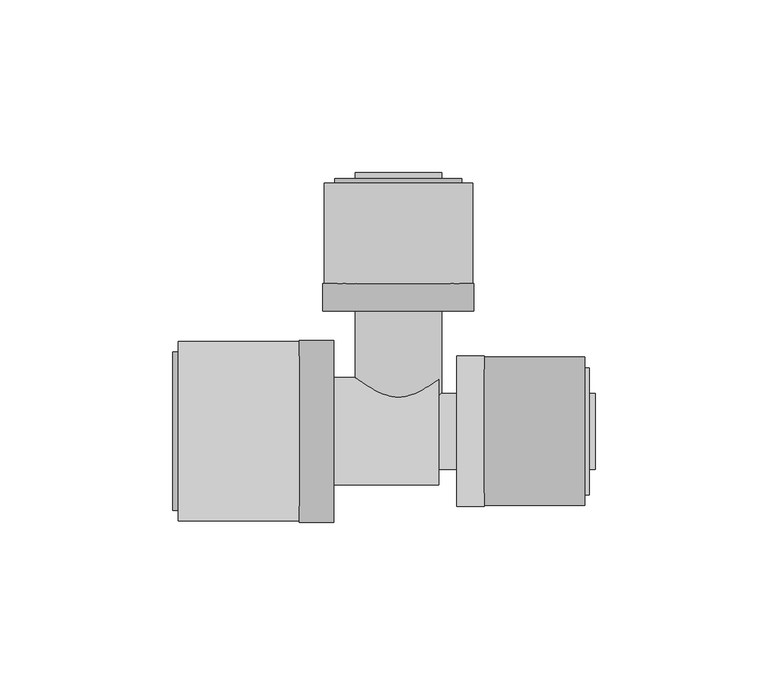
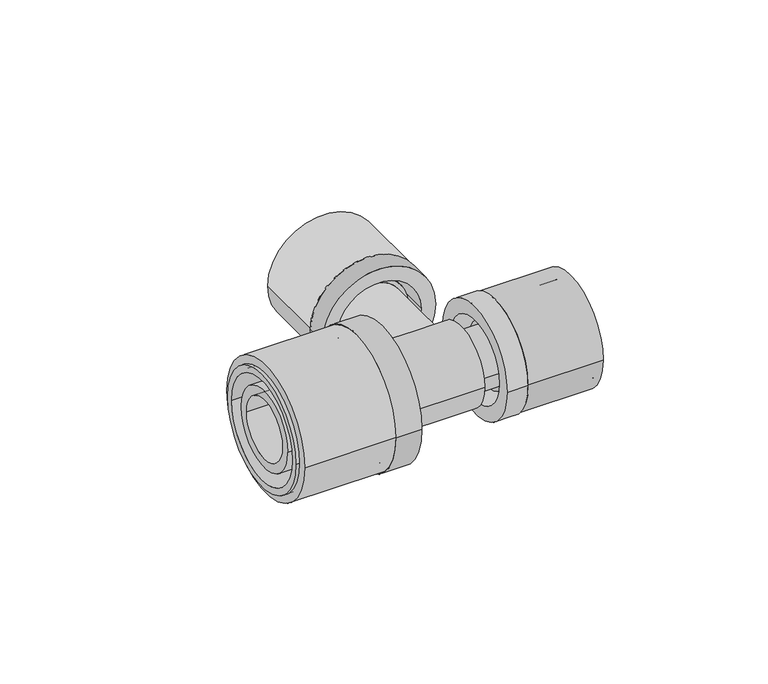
"""IFC4 building model written with IfcOpenShell, lengths in millimetres: pipe fitting geometry, FASTLOC_T-piece_LX : FSL T-Piece LX CZ."""

from ifc_helpers import new_model, si_unit, point, frame, origin, origin_2d, place, context, project, spatial, polyline, circle_curve, trimmed, segment, composite_curve, outline, extrude, source, transform, mapped, element, save
from ifc_brep_helpers import plane_surface, cylinder_surface, revolved_surface, advanced_brep


def pipe_fitting_757463f1(model_context):
    return source(origin(), model_context, "Body", "SolidModel", [
        extrude(outline(composite_curve([segment(trimmed(circle_curve(origin_2d(), 21.5), [point((-21.5, 0.0))], [point((21.5, 0.0))], False, "CARTESIAN"), True, "CONTINUOUS"), segment(trimmed(circle_curve(origin_2d(), 21.5), [point((21.5, 0.0))], [point((-21.5, 0.0))], False, "CARTESIAN"), True, "CONTINUOUS")], self_intersect=False), holes=[composite_curve([segment(trimmed(circle_curve(origin_2d(), 16.85), [point((-16.85, 0.0))], [point((16.85, 0.0))], True, "CARTESIAN"), True, "CONTINUOUS"), segment(trimmed(circle_curve(origin_2d(), 16.85), [point((16.85, 0.0))], [point((-16.85, 0.0))], True, "CARTESIAN"), True, "CONTINUOUS")], self_intersect=False)]), frame((24.9, 0.0, 0.0), z_axis=(1.0, 0.0, 0.0), x_axis=(0.0, 1.0, 0.0)), (0.0, 0.0, 1.0), 29.0),
        advanced_brep(
        [(24.9, 21.8, 0.0), (24.9, -21.8, 0.0), (16.9, -21.8, 0.0), (16.9, 21.8, 0.0), (55.2, 18.35, 0.0), (55.2, -18.35, 0.0), (24.9, -18.35, 0.0), (24.9, 18.35, 0.0), (16.9, 16.2, 0.0), (16.9, -16.2, 0.0), (55.2, -16.2, 0.0), (55.2, 16.2, 0.0)],
        [
            (0, 1, circle_curve(frame((24.9, 0.0, 0.0), z_axis=(-1.0, 0.0, 0.0), x_axis=(0.0, -1.0, 0.0)), 21.8)),
            (1, 2),
            (2, 3, circle_curve(frame((16.9, 0.0, 0.0), z_axis=(1.0, 0.0, 0.0), x_axis=(0.0, -1.0, 0.0)), 21.8)),
            (3, 0),
            (4, 5, circle_curve(frame((55.2, 0.0, 0.0), z_axis=(-1.0, 0.0, 0.0), x_axis=(0.0, -1.0, 0.0)), 18.35)),
            (5, 6),
            (6, 7, circle_curve(frame((24.9, 0.0, 0.0), z_axis=(1.0, 0.0, 0.0), x_axis=(0.0, -1.0, 0.0)), 18.35)),
            (7, 4),
            (8, 9, circle_curve(frame((16.9, 0.0, 0.0), z_axis=(-1.0, 0.0, 0.0), x_axis=(0.0, -1.0, 0.0)), 16.2)),
            (9, 10),
            (10, 11, circle_curve(frame((55.2, 0.0, 0.0), z_axis=(1.0, 0.0, 0.0), x_axis=(0.0, -1.0, 0.0)), 16.2)),
            (11, 8),
            (1, 0, circle_curve(frame((24.9, 0.0, 0.0), z_axis=(-1.0, 0.0, 0.0), x_axis=(0.0, 1.0, 0.0)), 21.8)),
            (3, 2, circle_curve(frame((16.9, 0.0, 0.0), z_axis=(1.0, 0.0, 0.0), x_axis=(0.0, 1.0, 0.0)), 21.8)),
            (6, 7, circle_curve(frame((24.9, 0.0, 0.0), z_axis=(-1.0, 0.0, 0.0), x_axis=(0.0, 1.0, 0.0)), 18.35)),
            (5, 4, circle_curve(frame((55.2, 0.0, 0.0), z_axis=(-1.0, 0.0, 0.0), x_axis=(0.0, 1.0, 0.0)), 18.35)),
            (10, 11, circle_curve(frame((55.2, 0.0, 0.0), z_axis=(-1.0, 0.0, 0.0), x_axis=(0.0, 1.0, 0.0)), 16.2)),
            (9, 8, circle_curve(frame((16.9, 0.0, 0.0), z_axis=(-1.0, 0.0, 0.0), x_axis=(0.0, 1.0, 0.0)), 16.2)),
        ],
        [
            cylinder_surface(frame((16.9, 0.0, 0.0), z_axis=(1.0, 0.0, 0.0), x_axis=(0.0, -1.0, 0.0)), 21.8),
            cylinder_surface(frame((16.9, 0.0, 0.0), z_axis=(1.0, 0.0, 0.0), x_axis=(0.0, -1.0, 0.0)), 18.35),
            revolved_surface(polyline([(55.2, -16.2, 0.0), (16.9, -16.2, 0.0)]), (16.9, 0.0, 0.0), (1.0, 0.0, 0.0)),
            cylinder_surface(frame((16.9, 0.0, 0.0), z_axis=(1.0, 0.0, 0.0), x_axis=(0.0, 1.0, 0.0)), 21.8),
            plane_surface(frame((24.9, 0.0, 0.0), z_axis=(1.0, 0.0, 0.0), x_axis=(0.0, 1.0, 0.0))),
            cylinder_surface(frame((16.9, 0.0, 0.0), z_axis=(1.0, 0.0, 0.0), x_axis=(0.0, 1.0, 0.0)), 18.35),
            plane_surface(frame((55.2, 0.0, 0.0), z_axis=(1.0, 0.0, 0.0), x_axis=(0.0, 1.0, 0.0))),
            revolved_surface(polyline([(55.2, 16.2, 0.0), (16.9, 16.2, 0.0)]), (16.9, 0.0, 0.0), (1.0, 0.0, 0.0)),
            plane_surface(frame((16.9, 0.0, 0.0), z_axis=(-1.0, 0.0, 0.0), x_axis=(0.0, 1.0, 0.0))),
        ],
        [
            (0, [[1, 2, 3, 4]]),
            (1, [[5, 6, 7, 8]]),
            (2, [[9, 10, 11, 12]]),
            (3, [[13, -4, 14, -2]]),
            (4, [[-13, -1], [15, -7]]),
            (5, [[16, -8, -15, -6]]),
            (6, [[-16, -5], [17, -11]]),
            (7, [[18, -12, -17, -10]]),
            (8, [[-14, -3], [-18, -9]]),
        ],
    ),
        extrude(outline(composite_curve([segment(trimmed(circle_curve(origin_2d(), 26.0), [point((26.0, 0.0))], [point((-26.0, 0.0))], False, "CARTESIAN"), True, "CONTINUOUS"), segment(trimmed(circle_curve(origin_2d(), 26.0), [point((-26.0, 0.0))], [point((26.0, 0.0))], False, "CARTESIAN"), True, "CONTINUOUS")], self_intersect=False), holes=[composite_curve([segment(trimmed(circle_curve(origin_2d(), 21.25), [point((21.25, 0.0))], [point((-21.25, 0.0))], True, "CARTESIAN"), True, "CONTINUOUS"), segment(trimmed(circle_curve(origin_2d(), 21.25), [point((-21.25, 0.0))], [point((21.25, 0.0))], True, "CARTESIAN"), True, "CONTINUOUS")], self_intersect=False)]), frame((-63.7, 0.0, 0.0), z_axis=(1.0, 0.0, 0.0), x_axis=(0.0, 1.0, 0.0)), (0.0, 0.0, 1.0), 35.0),
        advanced_brep(
        [(-28.7, -26.3, 0.0), (-28.7, 26.3, 0.0), (-18.7, 26.3, 0.0), (-18.7, -26.3, 0.0), (-65.2, -22.9, 0.0), (-65.2, 22.9, 0.0), (-28.7, 22.9, 0.0), (-28.7, -22.9, 0.0), (-18.7, -20.2, 0.0), (-18.7, 20.2, 0.0), (-65.2, 20.2, 0.0), (-65.2, -20.2, 0.0)],
        [
            (0, 1, circle_curve(frame((-28.7, 0.0, 0.0), z_axis=(1.0, 0.0, 0.0), x_axis=(0.0, 1.0, 0.0)), 26.3)),
            (1, 2),
            (2, 3, circle_curve(frame((-18.7, 0.0, 0.0), z_axis=(-1.0, 0.0, 0.0), x_axis=(0.0, 1.0, 0.0)), 26.3)),
            (3, 0),
            (4, 5, circle_curve(frame((-65.2, 0.0, 0.0), z_axis=(1.0, 0.0, 0.0), x_axis=(0.0, 1.0, 0.0)), 22.9)),
            (5, 6),
            (6, 7, circle_curve(frame((-28.7, 0.0, 0.0), z_axis=(-1.0, 0.0, 0.0), x_axis=(0.0, 1.0, 0.0)), 22.9)),
            (7, 4),
            (8, 9, circle_curve(frame((-18.7, 0.0, 0.0), z_axis=(1.0, 0.0, 0.0), x_axis=(0.0, 1.0, 0.0)), 20.2)),
            (9, 10),
            (10, 11, circle_curve(frame((-65.2, 0.0, 0.0), z_axis=(-1.0, 0.0, 0.0), x_axis=(0.0, 1.0, 0.0)), 20.2)),
            (11, 8),
            (1, 0, circle_curve(frame((-28.7, 0.0, 0.0), z_axis=(1.0, 0.0, 0.0), x_axis=(0.0, -1.0, 0.0)), 26.3)),
            (3, 2, circle_curve(frame((-18.7, 0.0, 0.0), z_axis=(-1.0, 0.0, 0.0), x_axis=(0.0, -1.0, 0.0)), 26.3)),
            (6, 7, circle_curve(frame((-28.7, 0.0, 0.0), z_axis=(1.0, 0.0, 0.0), x_axis=(0.0, -1.0, 0.0)), 22.9)),
            (5, 4, circle_curve(frame((-65.2, 0.0, 0.0), z_axis=(1.0, 0.0, 0.0), x_axis=(0.0, -1.0, 0.0)), 22.9)),
            (10, 11, circle_curve(frame((-65.2, 0.0, 0.0), z_axis=(1.0, 0.0, 0.0), x_axis=(0.0, -1.0, 0.0)), 20.2)),
            (9, 8, circle_curve(frame((-18.7, 0.0, 0.0), z_axis=(1.0, 0.0, 0.0), x_axis=(0.0, -1.0, 0.0)), 20.2)),
        ],
        [
            cylinder_surface(frame((-18.7, 0.0, 0.0), z_axis=(-1.0, 0.0, 0.0), x_axis=(0.0, 1.0, 0.0)), 26.3),
            cylinder_surface(frame((-18.7, 0.0, 0.0), z_axis=(-1.0, 0.0, 0.0), x_axis=(0.0, 1.0, 0.0)), 22.9),
            revolved_surface(polyline([(-65.2, 20.2, 0.0), (-18.7, 20.2, 0.0)]), (-18.7, 0.0, 0.0), (-1.0, 0.0, 0.0)),
            cylinder_surface(frame((-18.7, 0.0, 0.0), z_axis=(-1.0, 0.0, 0.0), x_axis=(0.0, -1.0, 0.0)), 26.3),
            plane_surface(frame((-28.7, 0.0, 0.0), z_axis=(-1.0, 0.0, 0.0), x_axis=(0.0, -1.0, 0.0))),
            cylinder_surface(frame((-18.7, 0.0, 0.0), z_axis=(-1.0, 0.0, 0.0), x_axis=(0.0, -1.0, 0.0)), 22.9),
            plane_surface(frame((-65.2, 0.0, 0.0), z_axis=(-1.0, 0.0, 0.0), x_axis=(0.0, -1.0, 0.0))),
            revolved_surface(polyline([(-65.2, -20.2, 0.0), (-18.7, -20.2, 0.0)]), (-18.7, 0.0, 0.0), (-1.0, 0.0, 0.0)),
            plane_surface(frame((-18.7, 0.0, 0.0), z_axis=(1.0, 0.0, 0.0), x_axis=(0.0, -1.0, 0.0))),
        ],
        [
            (0, [[1, 2, 3, 4]]),
            (1, [[5, 6, 7, 8]]),
            (2, [[9, 10, 11, 12]]),
            (3, [[13, -4, 14, -2]]),
            (4, [[-13, -1], [15, -7]]),
            (5, [[16, -8, -15, -6]]),
            (6, [[-16, -5], [17, -11]]),
            (7, [[18, -12, -17, -10]]),
            (8, [[-14, -3], [-18, -9]]),
        ],
    ),
        extrude(outline(composite_curve([segment(trimmed(circle_curve(origin_2d(), 21.5), [point((0.0, 21.5))], [point((0.0, -21.5))], False, "CARTESIAN"), True, "CONTINUOUS"), segment(trimmed(circle_curve(origin_2d(), 21.5), [point((0.0, -21.5))], [point((0.0, 21.5))], False, "CARTESIAN"), True, "CONTINUOUS")], self_intersect=False), holes=[composite_curve([segment(trimmed(circle_curve(origin_2d(), 16.85), [point((0.0, 16.85))], [point((0.0, -16.85))], True, "CARTESIAN"), True, "CONTINUOUS"), segment(trimmed(circle_curve(origin_2d(), 16.85), [point((0.0, -16.85))], [point((0.0, 16.85))], True, "CARTESIAN"), True, "CONTINUOUS")], self_intersect=False)]), frame((0.0, 42.8, 0.0), z_axis=(0.0, 1.0, 0.0), x_axis=(0.0, 0.0, 1.0)), (0.0, 0.0, 1.0), 29.0),
        advanced_brep(
        [(-21.8, 42.8, 0.0), (21.8, 42.8, 0.0), (21.8, 34.8, 0.0), (-21.8, 34.8, 0.0), (-18.35, 73.1, 0.0), (18.35, 73.1, 0.0), (18.35, 42.8, 0.0), (-18.35, 42.8, 0.0), (-16.2, 34.8, 0.0), (16.2, 34.8, 0.0), (16.2, 73.1, 0.0), (-16.2, 73.1, 0.0)],
        [
            (0, 1, circle_curve(frame((0.0, 42.8, 0.0), z_axis=(0.0, -1.0, 0.0), x_axis=(1.0, 0.0, 0.0)), 21.8)),
            (1, 2),
            (2, 3, circle_curve(frame((0.0, 34.8, 0.0), z_axis=(0.0, 1.0, 0.0), x_axis=(1.0, 0.0, 0.0)), 21.8)),
            (3, 0),
            (4, 5, circle_curve(frame((0.0, 73.1, 0.0), z_axis=(0.0, -1.0, 0.0), x_axis=(1.0, 0.0, 0.0)), 18.35)),
            (5, 6),
            (6, 7, circle_curve(frame((0.0, 42.8, 0.0), z_axis=(0.0, 1.0, 0.0), x_axis=(1.0, 0.0, 0.0)), 18.35)),
            (7, 4),
            (8, 9, circle_curve(frame((0.0, 34.8, 0.0), z_axis=(0.0, -1.0, 0.0), x_axis=(1.0, 0.0, 0.0)), 16.2)),
            (9, 10),
            (10, 11, circle_curve(frame((0.0, 73.1, 0.0), z_axis=(0.0, 1.0, 0.0), x_axis=(1.0, 0.0, 0.0)), 16.2)),
            (11, 8),
            (1, 0, circle_curve(frame((0.0, 42.8, 0.0), z_axis=(0.0, -1.0, 0.0), x_axis=(-1.0, 0.0, 0.0)), 21.8)),
            (3, 2, circle_curve(frame((0.0, 34.8, 0.0), z_axis=(0.0, 1.0, 0.0), x_axis=(-1.0, 0.0, 0.0)), 21.8)),
            (6, 7, circle_curve(frame((0.0, 42.8, 0.0), z_axis=(0.0, -1.0, 0.0), x_axis=(-1.0, 0.0, 0.0)), 18.35)),
            (5, 4, circle_curve(frame((0.0, 73.1, 0.0), z_axis=(0.0, -1.0, 0.0), x_axis=(-1.0, 0.0, 0.0)), 18.35)),
            (10, 11, circle_curve(frame((0.0, 73.1, 0.0), z_axis=(0.0, -1.0, 0.0), x_axis=(-1.0, 0.0, 0.0)), 16.2)),
            (9, 8, circle_curve(frame((0.0, 34.8, 0.0), z_axis=(0.0, -1.0, 0.0), x_axis=(-1.0, 0.0, 0.0)), 16.2)),
        ],
        [
            cylinder_surface(frame((0.0, 34.8, 0.0), z_axis=(0.0, 1.0, 0.0), x_axis=(1.0, 0.0, 0.0)), 21.8),
            cylinder_surface(frame((0.0, 34.8, 0.0), z_axis=(0.0, 1.0, 0.0), x_axis=(1.0, 0.0, 0.0)), 18.35),
            revolved_surface(polyline([(16.2, 73.1, 0.0), (16.2, 34.8, 0.0)]), (0.0, 34.8, 0.0), (0.0, 1.0, 0.0)),
            cylinder_surface(frame((0.0, 34.8, 0.0), z_axis=(0.0, 1.0, 0.0), x_axis=(-1.0, 0.0, 0.0)), 21.8),
            plane_surface(frame((0.0, 42.8, 0.0), z_axis=(0.0, 1.0, 0.0), x_axis=(-1.0, 0.0, 0.0))),
            cylinder_surface(frame((0.0, 34.8, 0.0), z_axis=(0.0, 1.0, 0.0), x_axis=(-1.0, 0.0, 0.0)), 18.35),
            plane_surface(frame((0.0, 73.1, 0.0), z_axis=(0.0, 1.0, 0.0), x_axis=(-1.0, 0.0, 0.0))),
            revolved_surface(polyline([(-16.2, 73.1, 0.0), (-16.2, 34.8, 0.0)]), (0.0, 34.8, 0.0), (0.0, 1.0, 0.0)),
            plane_surface(frame((0.0, 34.8, 0.0), z_axis=(0.0, -1.0, 0.0), x_axis=(-1.0, 0.0, 0.0))),
        ],
        [
            (0, [[1, 2, 3, 4]]),
            (1, [[5, 6, 7, 8]]),
            (2, [[9, 10, 11, 12]]),
            (3, [[13, -4, 14, -2]]),
            (4, [[-13, -1], [15, -7]]),
            (5, [[16, -8, -15, -6]]),
            (6, [[-16, -5], [17, -11]]),
            (7, [[18, -12, -17, -10]]),
            (8, [[-14, -3], [-18, -9]]),
        ],
    ),
        advanced_brep(
        [(21.9, 11.0, 0.0), (21.9, -11.0, 0.0), (11.65, -11.0, 0.0), (11.65, 11.0, 0.0), (24.9, 12.6, 0.0), (24.9, -12.6, 0.0), (21.9, -12.6, 0.0), (21.9, 12.6, 0.0), (56.9, 11.0, 0.0), (56.9, -11.0, 0.0), (24.9, -11.0, 0.0), (24.9, 11.0, 0.0), (9.0, 8.35, 0.0), (9.0, -8.35, 0.0), (56.9, -8.35, 0.0), (56.9, 8.35, 0.0), (-64.2, 11.95, 0.0), (-64.2, -11.95, 0.0), (9.0, -11.95, 0.0), (9.0, 11.95, 0.0), (-28.7, 15.55, 0.0), (-28.7, -15.55, 0.0), (-64.2, -15.55, 0.0), (-64.2, 15.55, 0.0), (-25.0, 17.2, 0.0), (-25.0, -17.2, 0.0), (-28.7, -17.2, 0.0), (-28.7, 17.2, 0.0), (11.65, 15.55, 0.0), (11.65, -15.55, 0.0), (-25.0, -15.55, 0.0), (-25.0, 15.55, 0.0)],
        [
            (0, 1, circle_curve(frame((21.9, 0.0, 0.0), z_axis=(-1.0, 0.0, 0.0), x_axis=(0.0, -1.0, 0.0)), 11.0)),
            (1, 2),
            (2, 3, circle_curve(frame((11.65, 0.0, 0.0), z_axis=(1.0, 0.0, 0.0), x_axis=(0.0, -1.0, 0.0)), 11.0)),
            (3, 0),
            (4, 5, circle_curve(frame((24.9, 0.0, 0.0), z_axis=(-1.0, 0.0, 0.0), x_axis=(0.0, -1.0, 0.0)), 12.6)),
            (5, 6),
            (6, 7, circle_curve(frame((21.9, 0.0, 0.0), z_axis=(1.0, 0.0, 0.0), x_axis=(0.0, -1.0, 0.0)), 12.6)),
            (7, 4),
            (8, 9, circle_curve(frame((56.9, 0.0, 0.0), z_axis=(-1.0, 0.0, 0.0), x_axis=(0.0, -1.0, 0.0)), 11.0)),
            (9, 10),
            (10, 11, circle_curve(frame((24.9, 0.0, 0.0), z_axis=(1.0, 0.0, 0.0), x_axis=(0.0, -1.0, 0.0)), 11.0)),
            (11, 8),
            (12, 13, circle_curve(frame((9.0, 0.0, 0.0), z_axis=(-1.0, 0.0, 0.0), x_axis=(0.0, -1.0, 0.0)), 8.35)),
            (13, 14),
            (14, 15, circle_curve(frame((56.9, 0.0, 0.0), z_axis=(1.0, 0.0, 0.0), x_axis=(0.0, -1.0, 0.0)), 8.35)),
            (15, 12),
            (16, 17, circle_curve(frame((-64.2, 0.0, 0.0), z_axis=(-1.0, 0.0, 0.0), x_axis=(0.0, -1.0, 0.0)), 11.95)),
            (17, 18),
            (18, 19, circle_curve(frame((9.0, 0.0, 0.0), z_axis=(1.0, 0.0, 0.0), x_axis=(0.0, -1.0, 0.0)), 11.95)),
            (19, 16),
            (20, 21, circle_curve(frame((-28.7, 0.0, 0.0), z_axis=(-1.0, 0.0, 0.0), x_axis=(0.0, -1.0, 0.0)), 15.55)),
            (21, 22),
            (22, 23, circle_curve(frame((-64.2, 0.0, 0.0), z_axis=(1.0, 0.0, 0.0), x_axis=(0.0, -1.0, 0.0)), 15.55)),
            (23, 20),
            (24, 25, circle_curve(frame((-25.0, 0.0, 0.0), z_axis=(-1.0, 0.0, 0.0), x_axis=(0.0, -1.0, 0.0)), 17.2)),
            (25, 26),
            (26, 27, circle_curve(frame((-28.7, 0.0, 0.0), z_axis=(1.0, 0.0, 0.0), x_axis=(0.0, -1.0, 0.0)), 17.2)),
            (27, 24),
            (28, 29, circle_curve(frame((11.65, 0.0, 0.0), z_axis=(-1.0, 0.0, 0.0), x_axis=(0.0, -1.0, 0.0)), 15.55)),
            (29, 30),
            (30, 31, circle_curve(frame((-25.0, 0.0, 0.0), z_axis=(1.0, 0.0, 0.0), x_axis=(0.0, -1.0, 0.0)), 15.55)),
            (31, 28),
            (28, 29, circle_curve(frame((11.65, 0.0, 0.0), z_axis=(1.0, 0.0, 0.0), x_axis=(0.0, 1.0, 0.0)), 15.55)),
            (2, 3, circle_curve(frame((11.65, 0.0, 0.0), z_axis=(-1.0, 0.0, 0.0), x_axis=(0.0, 1.0, 0.0)), 11.0)),
            (1, 0, circle_curve(frame((21.9, 0.0, 0.0), z_axis=(-1.0, 0.0, 0.0), x_axis=(0.0, 1.0, 0.0)), 11.0)),
            (6, 7, circle_curve(frame((21.9, 0.0, 0.0), z_axis=(-1.0, 0.0, 0.0), x_axis=(0.0, 1.0, 0.0)), 12.6)),
            (5, 4, circle_curve(frame((24.9, 0.0, 0.0), z_axis=(-1.0, 0.0, 0.0), x_axis=(0.0, 1.0, 0.0)), 12.6)),
            (10, 11, circle_curve(frame((24.9, 0.0, 0.0), z_axis=(-1.0, 0.0, 0.0), x_axis=(0.0, 1.0, 0.0)), 11.0)),
            (9, 8, circle_curve(frame((56.9, 0.0, 0.0), z_axis=(-1.0, 0.0, 0.0), x_axis=(0.0, 1.0, 0.0)), 11.0)),
            (14, 15, circle_curve(frame((56.9, 0.0, 0.0), z_axis=(-1.0, 0.0, 0.0), x_axis=(0.0, 1.0, 0.0)), 8.35)),
            (13, 12, circle_curve(frame((9.0, 0.0, 0.0), z_axis=(-1.0, 0.0, 0.0), x_axis=(0.0, 1.0, 0.0)), 8.35)),
            (18, 19, circle_curve(frame((9.0, 0.0, 0.0), z_axis=(-1.0, 0.0, 0.0), x_axis=(0.0, 1.0, 0.0)), 11.95)),
            (17, 16, circle_curve(frame((-64.2, 0.0, 0.0), z_axis=(-1.0, 0.0, 0.0), x_axis=(0.0, 1.0, 0.0)), 11.95)),
            (22, 23, circle_curve(frame((-64.2, 0.0, 0.0), z_axis=(-1.0, 0.0, 0.0), x_axis=(0.0, 1.0, 0.0)), 15.55)),
            (21, 20, circle_curve(frame((-28.7, 0.0, 0.0), z_axis=(-1.0, 0.0, 0.0), x_axis=(0.0, 1.0, 0.0)), 15.55)),
            (26, 27, circle_curve(frame((-28.7, 0.0, 0.0), z_axis=(-1.0, 0.0, 0.0), x_axis=(0.0, 1.0, 0.0)), 17.2)),
            (25, 24, circle_curve(frame((-25.0, 0.0, 0.0), z_axis=(-1.0, 0.0, 0.0), x_axis=(0.0, 1.0, 0.0)), 17.2)),
            (30, 31, circle_curve(frame((-25.0, 0.0, 0.0), z_axis=(-1.0, 0.0, 0.0), x_axis=(0.0, 1.0, 0.0)), 15.55)),
        ],
        [
            cylinder_surface(frame((0.0, 0.0, 0.0), z_axis=(1.0, 0.0, 0.0), x_axis=(0.0, -1.0, 0.0)), 11.0),
            cylinder_surface(frame((0.0, 0.0, 0.0), z_axis=(1.0, 0.0, 0.0), x_axis=(0.0, -1.0, 0.0)), 12.6),
            revolved_surface(polyline([(56.9, -8.35, 0.0), (9.0, -8.35, 0.0)]), (0.0, 0.0, 0.0), (1.0, 0.0, 0.0)),
            revolved_surface(polyline([(9.0, -11.95, 0.0), (-64.2, -11.95, 0.0)]), (0.0, 0.0, 0.0), (1.0, 0.0, 0.0)),
            cylinder_surface(frame((0.0, 0.0, 0.0), z_axis=(1.0, 0.0, 0.0), x_axis=(0.0, -1.0, 0.0)), 15.55),
            cylinder_surface(frame((0.0, 0.0, 0.0), z_axis=(1.0, 0.0, 0.0), x_axis=(0.0, -1.0, 0.0)), 17.2),
            plane_surface(frame((11.65, 0.0, 0.0), z_axis=(1.0, 0.0, 0.0), x_axis=(0.0, 1.0, 0.0))),
            cylinder_surface(frame((0.0, 0.0, 0.0), z_axis=(1.0, 0.0, 0.0), x_axis=(0.0, 1.0, 0.0)), 11.0),
            plane_surface(frame((21.9, 0.0, 0.0), z_axis=(-1.0, 0.0, 0.0), x_axis=(0.0, 1.0, 0.0))),
            cylinder_surface(frame((0.0, 0.0, 0.0), z_axis=(1.0, 0.0, 0.0), x_axis=(0.0, 1.0, 0.0)), 12.6),
            plane_surface(frame((24.9, 0.0, 0.0), z_axis=(1.0, 0.0, 0.0), x_axis=(0.0, 1.0, 0.0))),
            plane_surface(frame((56.9, 0.0, 0.0), z_axis=(1.0, 0.0, 0.0), x_axis=(0.0, 1.0, 0.0))),
            revolved_surface(polyline([(56.9, 8.35, 0.0), (9.0, 8.35, 0.0)]), (0.0, 0.0, 0.0), (1.0, 0.0, 0.0)),
            plane_surface(frame((9.0, 0.0, 0.0), z_axis=(-1.0, 0.0, 0.0), x_axis=(0.0, 1.0, 0.0))),
            revolved_surface(polyline([(9.0, 11.95, 0.0), (-64.2, 11.95, 0.0)]), (0.0, 0.0, 0.0), (1.0, 0.0, 0.0)),
            plane_surface(frame((-64.2, 0.0, 0.0), z_axis=(-1.0, 0.0, 0.0), x_axis=(0.0, 1.0, 0.0))),
            cylinder_surface(frame((0.0, 0.0, 0.0), z_axis=(1.0, 0.0, 0.0), x_axis=(0.0, 1.0, 0.0)), 15.55),
            plane_surface(frame((-28.7, 0.0, 0.0), z_axis=(-1.0, 0.0, 0.0), x_axis=(0.0, 1.0, 0.0))),
            cylinder_surface(frame((0.0, 0.0, 0.0), z_axis=(1.0, 0.0, 0.0), x_axis=(0.0, 1.0, 0.0)), 17.2),
            plane_surface(frame((-25.0, 0.0, 0.0), z_axis=(1.0, 0.0, 0.0), x_axis=(0.0, 1.0, 0.0))),
        ],
        [
            (0, [[1, 2, 3, 4]]),
            (1, [[5, 6, 7, 8]]),
            (0, [[9, 10, 11, 12]]),
            (2, [[13, 14, 15, 16]]),
            (3, [[17, 18, 19, 20]]),
            (4, [[21, 22, 23, 24]]),
            (5, [[25, 26, 27, 28]]),
            (4, [[29, 30, 31, 32]]),
            (6, [[33, -29], [34, -3]]),
            (7, [[35, -4, -34, -2]]),
            (8, [[36, -7], [-35, -1]]),
            (9, [[37, -8, -36, -6]]),
            (10, [[-37, -5], [38, -11]]),
            (7, [[39, -12, -38, -10]]),
            (11, [[-39, -9], [40, -15]]),
            (12, [[41, -16, -40, -14]]),
            (13, [[42, -19], [-41, -13]]),
            (14, [[43, -20, -42, -18]]),
            (15, [[44, -23], [-43, -17]]),
            (16, [[45, -24, -44, -22]]),
            (17, [[46, -27], [-45, -21]]),
            (18, [[47, -28, -46, -26]]),
            (19, [[-47, -25], [48, -31]]),
            (16, [[-33, -32, -48, -30]]),
        ],
    ),
        advanced_brep(
        [(9.85, 74.8, 0.0), (-9.85, 74.8, 0.0), (-9.85, 0.0, 0.0), (9.85, 0.0, 0.0), (12.5, 0.0, 0.0), (-12.5, 0.0, 0.0), (-12.5, 39.8, 0.0), (12.5, 39.8, 0.0), (14.1, 39.8, 0.0), (-14.1, 39.8, 0.0), (-14.1, 42.8, 0.0), (14.1, 42.8, 0.0), (12.5, 42.8, 0.0), (-12.5, 42.8, 0.0), (-12.5, 74.8, 0.0), (12.5, 74.8, 0.0)],
        [
            (0, 1, circle_curve(frame((0.0, 74.8, 0.0), z_axis=(0.0, 1.0, 0.0), x_axis=(-1.0, 0.0, 0.0)), 9.85)),
            (1, 2),
            (2, 3, circle_curve(frame((0.0, 0.0, 0.0), z_axis=(0.0, -1.0, 0.0), x_axis=(-1.0, 0.0, 0.0)), 9.85)),
            (3, 0),
            (4, 5, circle_curve(frame((0.0, 0.0, 0.0), z_axis=(0.0, 1.0, 0.0), x_axis=(-1.0, 0.0, 0.0)), 12.5)),
            (5, 6),
            (6, 7, circle_curve(frame((0.0, 39.8, 0.0), z_axis=(0.0, -1.0, 0.0), x_axis=(-1.0, 0.0, 0.0)), 12.5)),
            (7, 4),
            (8, 9, circle_curve(frame((0.0, 39.8, 0.0), z_axis=(0.0, 1.0, 0.0), x_axis=(-1.0, 0.0, 0.0)), 14.1)),
            (9, 10),
            (10, 11, circle_curve(frame((0.0, 42.8, 0.0), z_axis=(0.0, -1.0, 0.0), x_axis=(-1.0, 0.0, 0.0)), 14.1)),
            (11, 8),
            (12, 13, circle_curve(frame((0.0, 42.8, 0.0), z_axis=(0.0, 1.0, 0.0), x_axis=(-1.0, 0.0, 0.0)), 12.5)),
            (13, 14),
            (14, 15, circle_curve(frame((0.0, 74.8, 0.0), z_axis=(0.0, -1.0, 0.0), x_axis=(-1.0, 0.0, 0.0)), 12.5)),
            (15, 12),
            (1, 0, circle_curve(frame((0.0, 74.8, 0.0), z_axis=(0.0, 1.0, 0.0), x_axis=(1.0, 0.0, 0.0)), 9.85)),
            (3, 2, circle_curve(frame((0.0, 0.0, 0.0), z_axis=(0.0, -1.0, 0.0), x_axis=(1.0, 0.0, 0.0)), 9.85)),
            (4, 5, circle_curve(frame((0.0, 0.0, 0.0), z_axis=(0.0, -1.0, 0.0), x_axis=(1.0, 0.0, 0.0)), 12.5)),
            (7, 6, circle_curve(frame((0.0, 39.8, 0.0), z_axis=(0.0, -1.0, 0.0), x_axis=(1.0, 0.0, 0.0)), 12.5)),
            (8, 9, circle_curve(frame((0.0, 39.8, 0.0), z_axis=(0.0, -1.0, 0.0), x_axis=(1.0, 0.0, 0.0)), 14.1)),
            (11, 10, circle_curve(frame((0.0, 42.8, 0.0), z_axis=(0.0, -1.0, 0.0), x_axis=(1.0, 0.0, 0.0)), 14.1)),
            (12, 13, circle_curve(frame((0.0, 42.8, 0.0), z_axis=(0.0, -1.0, 0.0), x_axis=(1.0, 0.0, 0.0)), 12.5)),
            (15, 14, circle_curve(frame((0.0, 74.8, 0.0), z_axis=(0.0, -1.0, 0.0), x_axis=(1.0, 0.0, 0.0)), 12.5)),
        ],
        [
            revolved_surface(polyline([(-9.85, 0.0, 0.0), (-9.85, 74.8, 0.0)]), (0.0, 0.0, 0.0), (0.0, -1.0, 0.0)),
            cylinder_surface(frame((0.0, 0.0, 0.0), z_axis=(0.0, -1.0, 0.0), x_axis=(-1.0, 0.0, 0.0)), 12.5),
            cylinder_surface(frame((0.0, 0.0, 0.0), z_axis=(0.0, -1.0, 0.0), x_axis=(-1.0, 0.0, 0.0)), 14.1),
            revolved_surface(polyline([(9.85, 0.0, 0.0), (9.85, 74.8, 0.0)]), (0.0, 0.0, 0.0), (0.0, -1.0, 0.0)),
            plane_surface(frame((0.0, 0.0, 0.0), z_axis=(0.0, -1.0, 0.0), x_axis=(1.0, 0.0, 0.0))),
            cylinder_surface(frame((0.0, 0.0, 0.0), z_axis=(0.0, -1.0, 0.0), x_axis=(1.0, 0.0, 0.0)), 12.5),
            plane_surface(frame((0.0, 39.8, 0.0), z_axis=(0.0, -1.0, 0.0), x_axis=(1.0, 0.0, 0.0))),
            cylinder_surface(frame((0.0, 0.0, 0.0), z_axis=(0.0, -1.0, 0.0), x_axis=(1.0, 0.0, 0.0)), 14.1),
            plane_surface(frame((0.0, 42.8, 0.0), z_axis=(0.0, 1.0, 0.0), x_axis=(1.0, 0.0, 0.0))),
            plane_surface(frame((0.0, 74.8, 0.0), z_axis=(0.0, 1.0, 0.0), x_axis=(1.0, 0.0, 0.0))),
        ],
        [
            (0, [[1, 2, 3, 4]]),
            (1, [[5, 6, 7, 8]]),
            (2, [[9, 10, 11, 12]]),
            (1, [[13, 14, 15, 16]]),
            (3, [[17, -4, 18, -2]]),
            (4, [[19, -5], [-18, -3]]),
            (5, [[-19, -8, 20, -6]]),
            (6, [[21, -9], [-20, -7]]),
            (7, [[-21, -12, 22, -10]]),
            (8, [[-22, -11], [23, -13]]),
            (5, [[-23, -16, 24, -14]]),
            (9, [[-24, -15], [-17, -1]]),
        ],
    ),
    ])


if __name__ == "__main__":
    model = new_model("IFC4")
    model_context = context("Model", 3, world=origin())
    ifc_project = project(units=[si_unit("LENGTHUNIT", "METRE", prefix="MILLI")], contexts=[model_context])
    site = spatial("IfcSite", under=ifc_project)
    building = spatial("IfcBuilding", under=site)
    placement = place(None, origin())
    pipe_fitting_shape = pipe_fitting_757463f1(model_context)
    element("IfcPipeFitting", 1, ObjectType="FASTLOC_T-piece_LX : FSL T-Piece LX CZ", at=placement, inside=building, context=model_context, shape_type="MappedRepresentation", body=[
        mapped(pipe_fitting_shape, transform((0.0, 0.0, 0.0), x_axis=(1.0, 0.0, 0.0), y_axis=(0.0, 1.0, 0.0), z_axis=(0.0, 0.0, 1.0))),
    ])
    save(model, "model.ifc")
